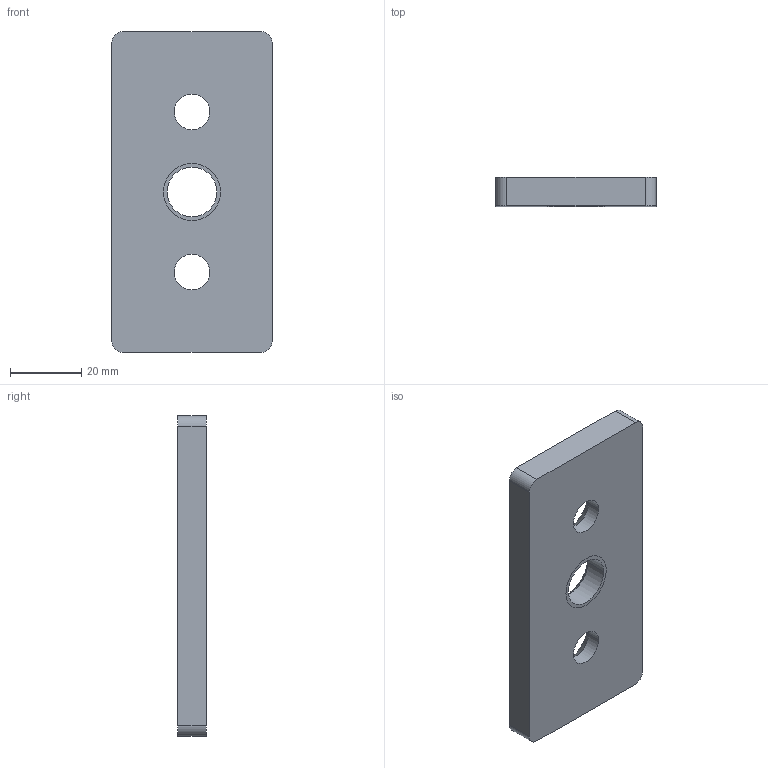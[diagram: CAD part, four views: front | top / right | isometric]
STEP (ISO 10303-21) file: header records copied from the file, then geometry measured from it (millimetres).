
FILE_DESCRIPTION((''),'2;1');
FILE_NAME('TAF459016','2002-12-27T',('Lipro doo'),('Lipro d.o.o.'),'PRO/ENGINEER BY PARAMETRIC TECHNOLOGY CORPORATION, 2001150','PRO/ENGINEER BY PARAMETRIC TECHNOLOGY CORPORATION, 2001150','');
FILE_SCHEMA(('CONFIG_CONTROL_DESIGN'));
Length unit declared in the file: millimetre
Products named in the file (1): TAF459016
Bounding box: 45 x 8 x 90 mm (x, y, z)
Volume: 29140.4 mm3; surface area: 10653.6 mm2
Topology: 1 solids, 2 shells, 24 faces, 60 edges, 38 vertices
Faces by surface type: cylinder 12, plane 6, cone 6
Entity records: 782 total; most frequent: DIRECTION 140, CARTESIAN_POINT 123, ORIENTED_EDGE 116, EDGE_CURVE 60, AXIS2_PLACEMENT_3D 55, VERTEX_POINT 38, VECTOR 30, LINE 30
